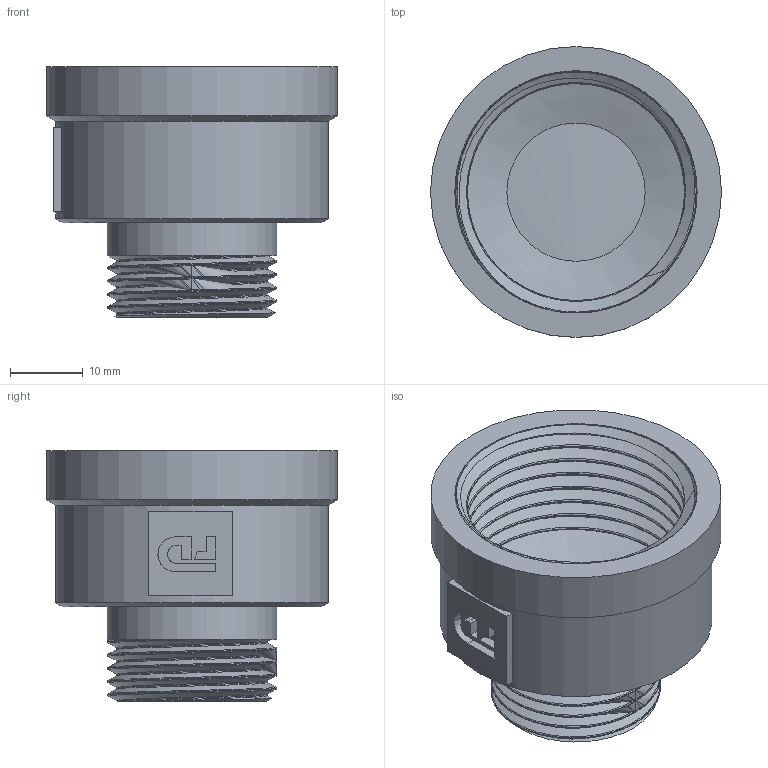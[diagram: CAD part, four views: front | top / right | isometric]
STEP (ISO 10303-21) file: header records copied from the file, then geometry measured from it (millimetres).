
FILE_DESCRIPTION(/* description */ (''),/* implementation_level */ '2;1');
FILE_NAME(/* name */ 'C:\Users\Doom\Desktop\Фадотех\Резьба\P02C 18.03.2020\P02C 18.03.2020.stp',/* time_stamp */ '2022-01-11T23:34:14+02:00',/* author */ ('Doom'),/* organization */ (''),/* preprocessor_version */ 'ST-DEVELOPER v18',/* originating_system */ 'Autodesk Inventor 2020',/* authorisation */ '');
FILE_SCHEMA (('AUTOMOTIVE_DESIGN { 1 0 10303 214 3 1 1 }'));
Length unit declared in the file: millimetre
Products named in the file (1): P01C 18.03.2020
Bounding box: 40 x 40 x 34.5 mm (x, y, z)
Volume: 13190.5 mm3; surface area: 15329.7 mm2
Topology: 3 solids, 3 shells, 75 faces, 202 edges, 135 vertices
Faces by surface type: plane 29, cylinder 24, bspline 16, cone 6
Full cylindrical faces by diameter (mm): 19 x1, 20.593 x2, 23.284 x6, 29.856 x7, 33.281 x2, 37.5 x1, 40 x1
Entity records: 9421 total; most frequent: CARTESIAN_POINT 7665, ORIENTED_EDGE 396, DIRECTION 279, EDGE_CURVE 198, VERTEX_POINT 133, AXIS2_PLACEMENT_3D 99, EDGE_LOOP 85, LINE 81
